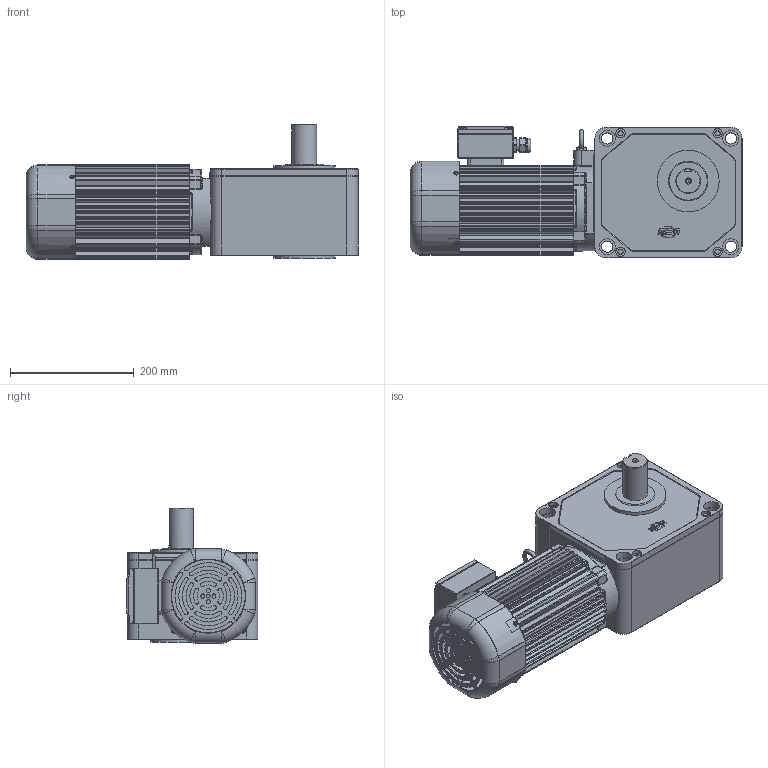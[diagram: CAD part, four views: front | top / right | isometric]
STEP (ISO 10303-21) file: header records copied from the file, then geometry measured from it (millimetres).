
FILE_DESCRIPTION(/* description */ (''),/* implementation_level */ '2;1');
FILE_NAME(/* name */ 'Z:\동력 3D 파일\PCS40L_0.75kW_Brake_3D.stp',/* time_stamp */ '2021-11-09T13:27:22+09:00',/* author */ ('jaebok'),/* organization */ (''),/* preprocessor_version */ 'ST-DEVELOPER v18.1',/* originating_system */ 'Autodesk Inventor 2022',/* authorisation */ '');
FILE_SCHEMA (('AUTOMOTIVE_DESIGN { 1 0 10303 214 3 1 1 }'));
Products named in the file (1): 부품69
Bounding box: 537 x 213 x 219 mm (x, y, z)
Volume: 4580038.7 mm3; surface area: 954841.5 mm2
Topology: 1 solids, 26 shells, 2048 faces, 5339 edges, 3353 vertices
Faces by surface type: plane 928, cylinder 792, bspline 133, torus 124, cone 55, sphere 16
Full cylindrical faces by diameter (mm): 3.25 x1, 3.6 x4, 4 x18, 5 x13, 6 x5, 6.647 x1, 7 x13, 8 x7, 8.5 x4, 10 x1, 12.5 x1, 15 x5, 18 x4, 20 x2, 20.6 x1, 21 x1, 23.6 x1, 25 x1, 26 x12, 40 x1, 64 x2, 73 x1, 81 x1, 85 x2, 90 x2, 100 x2, 119 x1, 122 x1, 125 x1, 128 x1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
Entity records: 68996 total; most frequent: CARTESIAN_POINT 16235, DIRECTION 11010, ORIENTED_EDGE 10586, EDGE_CURVE 5293, AXIS2_PLACEMENT_3D 4136, VERTEX_POINT 3345, LINE 2738, VECTOR 2738
